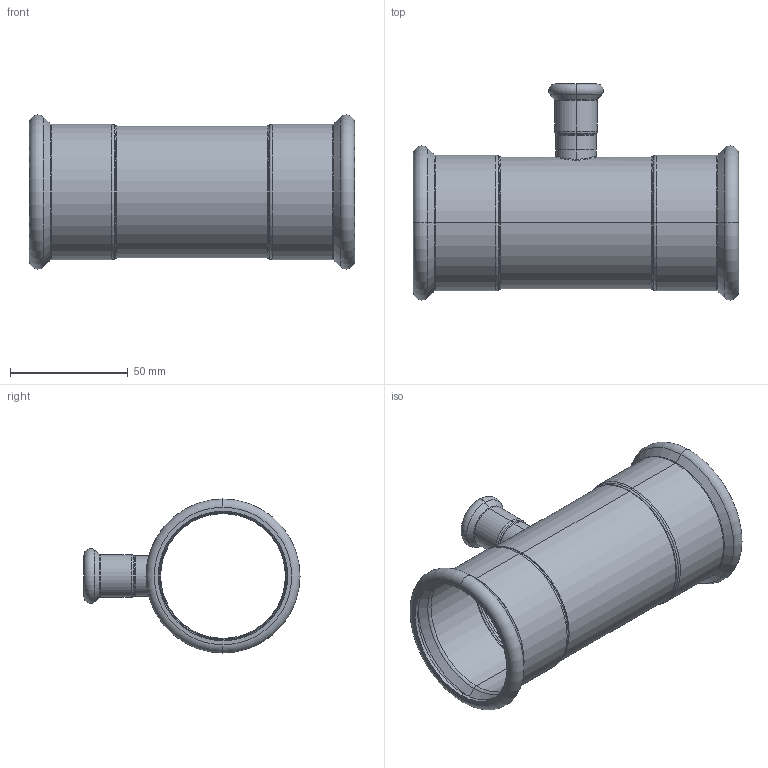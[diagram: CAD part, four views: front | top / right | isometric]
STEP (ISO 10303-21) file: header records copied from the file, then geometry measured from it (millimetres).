
FILE_DESCRIPTION (( 'STEP AP203' ), '1' );
FILE_NAME ('GDA5206.STEP', '2019-01-12T05:45:49', ( '' ), ( '' ), 'SwSTEP 2.0', 'SolidWorks 2015', '' );
FILE_SCHEMA (( 'CONFIG_CONTROL_DESIGN' ));
Length unit declared in the file: millimetre
Products named in the file (3): T-ｉ-01-15; GDA5206; T(R)-¢ñ-54¡Á15''
Assembly tree (2 placements, depth 2):
  GDA5206
    T(R)-¢ñ-54¡Á15''
    T-ｉ-01-15
Bounding box: 138 x 91.69 x 65.39 mm (x, y, z)
Volume: 41105.8 mm3; surface area: 55556.5 mm2
Topology: 2 solids, 2 shells, 114 faces, 234 edges, 128 vertices
Faces by surface type: torus 48, cylinder 30, cone 24, plane 8, bspline 4
Entity records: 4214 total; most frequent: CARTESIAN_POINT 1424, DIRECTION 620, ORIENTED_EDGE 468, AXIS2_PLACEMENT_3D 283, EDGE_CURVE 234, CIRCLE 168, VERTEX_POINT 128, EDGE_LOOP 124
